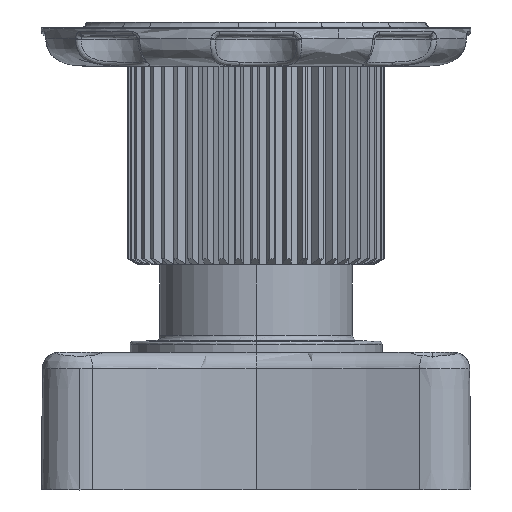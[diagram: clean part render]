
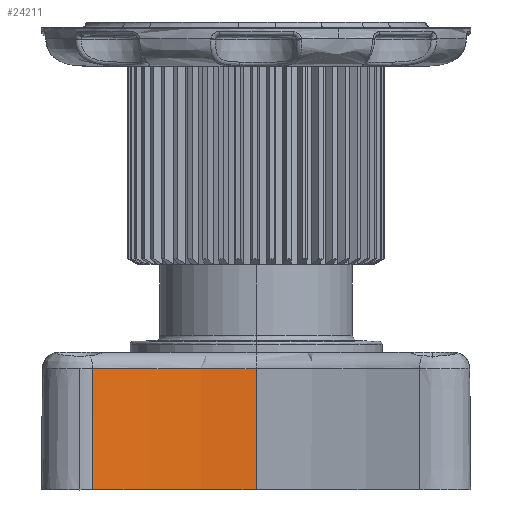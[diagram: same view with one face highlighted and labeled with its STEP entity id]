
A CAD part, left-side view. The second image highlights one B-rep face of the part: STEP entity #24211.
In plain terms, the highlighted conical face has half-angle 0.5 degrees and reference radius 88 mm.
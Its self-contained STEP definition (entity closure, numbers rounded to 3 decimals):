
#524 = DIRECTION ( 'NONE',  ( 0.009, 0., 1. ) ) ;
#825 = ORIENTED_EDGE ( 'NONE', *, *, #26394, .T. ) ;
#1499 = AXIS2_PLACEMENT_3D ( 'NONE', #22658, #25639, #32734 ) ;
#2015 = DIRECTION ( 'NONE',  ( -1., 0., 0. ) ) ;
#2815 = VERTEX_POINT ( 'NONE', #40107 ) ;
#3546 = FACE_OUTER_BOUND ( 'NONE', #8486, .T. ) ;
#3786 = ORIENTED_EDGE ( 'NONE', *, *, #13884, .T. ) ;
#5269 = VECTOR ( 'NONE', #524, 1000. ) ;
#6540 = EDGE_CURVE ( 'NONE', #10270, #30952, #8064, .T. ) ;
#6685 = EDGE_CURVE ( 'NONE', #41560, #2815, #38249, .T. ) ;
#7168 = CARTESIAN_POINT ( 'NONE',  ( -28.375, 35.817, 95.185 ) ) ;
#8064 = CIRCLE ( 'NONE', #29491, 88. ) ;
#8486 = EDGE_LOOP ( 'NONE', ( #11543, #825, #15196, #3786 ) ) ;
#10270 = VERTEX_POINT ( 'NONE', #24012 ) ;
#10929 = CONICAL_SURFACE ( 'NONE', #1499, 88., 0.009 ) ;
#11543 = ORIENTED_EDGE ( 'NONE', *, *, #6540, .T. ) ;
#13127 = VECTOR ( 'NONE', #36306, 1000. ) ;
#13884 = EDGE_CURVE ( 'NONE', #41560, #10270, #32977, .T. ) ;
#15196 = ORIENTED_EDGE ( 'NONE', *, *, #6685, .F. ) ;
#18584 = CARTESIAN_POINT ( 'NONE',  ( -111.322, 6.142, 106.199 ) ) ;
#22658 = CARTESIAN_POINT ( 'NONE',  ( -111.322, 6.142, 84.171 ) ) ;
#23618 = CARTESIAN_POINT ( 'NONE',  ( -23.323, 6.142, 84.171 ) ) ;
#24012 = CARTESIAN_POINT ( 'NONE',  ( -28.465, 35.784, 84.173 ) ) ;
#24211 = ADVANCED_FACE ( 'NONE', ( #3546 ), #10929, .F. ) ;
#25639 = DIRECTION ( 'NONE',  ( 0., 0., 1. ) ) ;
#26313 = DIRECTION ( 'NONE',  ( 0., 0., -1. ) ) ;
#26394 = EDGE_CURVE ( 'NONE', #30952, #2815, #35602, .T. ) ;
#27037 = CARTESIAN_POINT ( 'NONE',  ( -23.322, 6.142, 84.173 ) ) ;
#29491 = AXIS2_PLACEMENT_3D ( 'NONE', #36138, #26313, #39116 ) ;
#30854 = AXIS2_PLACEMENT_3D ( 'NONE', #18584, #31387, #2015 ) ;
#30952 = VERTEX_POINT ( 'NONE', #27037 ) ;
#31387 = DIRECTION ( 'NONE',  ( 0., 0., -1. ) ) ;
#32734 = DIRECTION ( 'NONE',  ( 1., 0., 0. ) ) ;
#32806 = CARTESIAN_POINT ( 'NONE',  ( -28.284, 35.849, 106.199 ) ) ;
#32977 = LINE ( 'NONE', #7168, #13127 ) ;
#35602 = LINE ( 'NONE', #23618, #5269 ) ;
#36138 = CARTESIAN_POINT ( 'NONE',  ( -111.322, 6.142, 84.173 ) ) ;
#36306 = DIRECTION ( 'NONE',  ( -0.008, -0.003, -1. ) ) ;
#38249 = CIRCLE ( 'NONE', #30854, 88.192 ) ;
#39116 = DIRECTION ( 'NONE',  ( 1., 0., 0. ) ) ;
#40107 = CARTESIAN_POINT ( 'NONE',  ( -23.13, 6.142, 106.199 ) ) ;
#41560 = VERTEX_POINT ( 'NONE', #32806 ) ;
